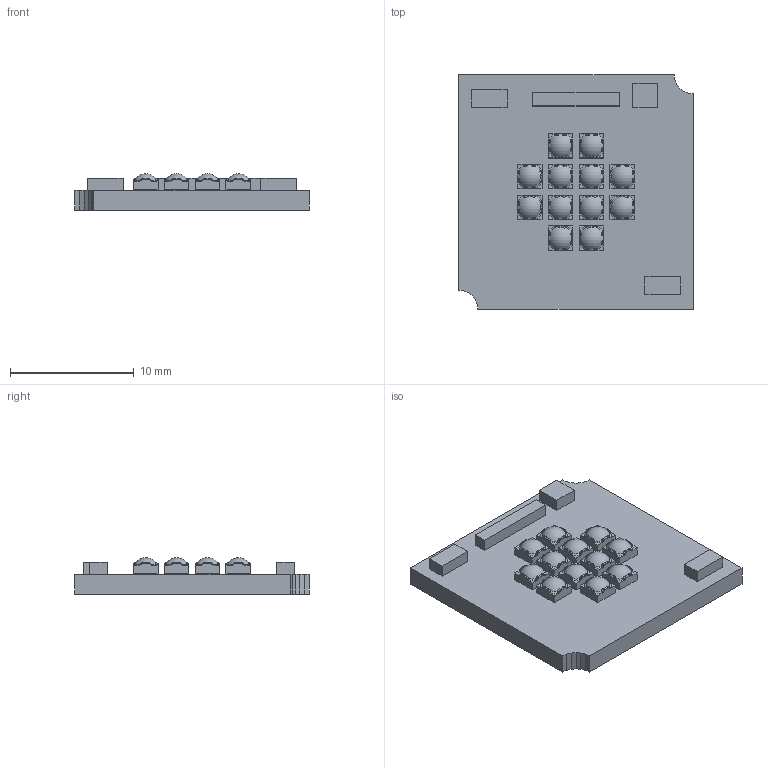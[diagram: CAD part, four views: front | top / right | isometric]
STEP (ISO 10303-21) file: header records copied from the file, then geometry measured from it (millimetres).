
FILE_DESCRIPTION((''),'2;1');
FILE_NAME('V19L09SA2_06072021_10-37-46_ASM','2021-06-07T',('SYSTEM'),(''),'PRO/ENGINEER BY PARAMETRIC TECHNOLOGY CORPORATION, 2009360','PRO/ENGINEER BY PARAMETRIC TECHNOLOGY CORPORATION, 2009360','');
FILE_SCHEMA(('AUTOMOTIVE_DESIGN_CC2 { 1 2 10303 214 -1 1 5 2 }'));
Products named in the file (6): V19L09SA2_06072021_10-37-46; 2020; FIDUCIAL_R0_5MM; ARKALUMEN_LOGO_7MM; C1919_EC; V19L09SA2_06072021_10-37-46_ASM
Assembly tree (17 placements, depth 2):
  V19L09SA2_06072021_10-37-46_ASM
    V19L09SA2_06072021_10-37-46
    2020  x12
    FIDUCIAL_R0_5MM
    ARKALUMEN_LOGO_7MM
    C1919_EC  x2
Bounding box: 19 x 19 x 2.94 mm (x, y, z)
Volume: 639.2 mm3; surface area: 1102.8 mm2
Topology: 17 solids, 17 shells, 1038 faces, 2640 edges, 1672 vertices
Faces by surface type: plane 390, cylinder 348, bspline 192, torus 96, sphere 12
Entity records: 4421 total; most frequent: CARTESIAN_POINT 1163, ORIENTED_EDGE 592, DIRECTION 584, EDGE_CURVE 296, AXIS2_PLACEMENT_3D 202, VERTEX_POINT 190, VECTOR 180, LINE 180
